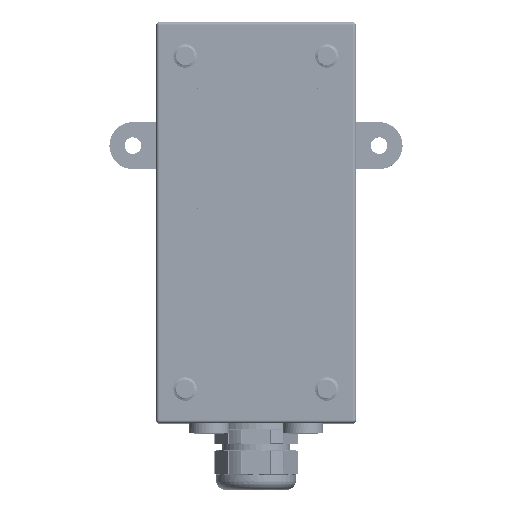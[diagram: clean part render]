
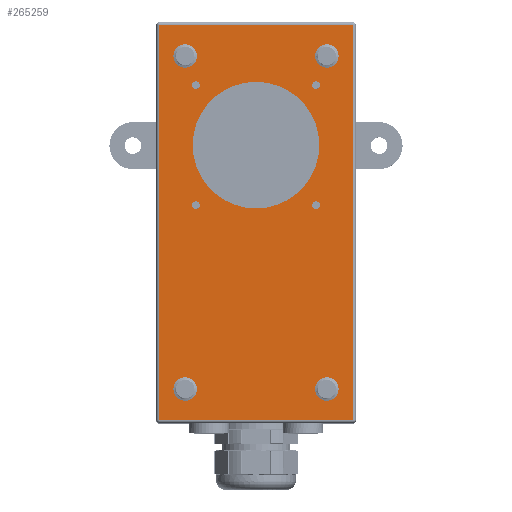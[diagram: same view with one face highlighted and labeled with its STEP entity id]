
A CAD part, top view. The second image highlights one B-rep face of the part: STEP entity #265259.
In plain terms, the highlighted planar face has unit normal (0, 0, 1).
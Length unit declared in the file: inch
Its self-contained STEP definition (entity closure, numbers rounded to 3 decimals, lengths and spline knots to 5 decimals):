
#211 = VECTOR ( 'NONE', #9081, 39.37008 ) ;
#762 = DIRECTION ( 'NONE',  ( 1., 0., 0. ) ) ;
#3492 = CARTESIAN_POINT ( 'NONE',  ( 0., 0., 1.53 ) ) ;
#5926 = EDGE_LOOP ( 'NONE', ( #28996 ) ) ;
#6194 = DIRECTION ( 'NONE',  ( 0., 0., 1. ) ) ;
#6613 = CARTESIAN_POINT ( 'NONE',  ( -2.065, -4.215, 1.53 ) ) ;
#8203 = VERTEX_POINT ( 'NONE', #174465 ) ;
#9081 = DIRECTION ( 'NONE',  ( 0., 1., 0. ) ) ;
#9269 = DIRECTION ( 'NONE',  ( 0., 0., 1. ) ) ;
#10535 = CIRCLE ( 'NONE', #229833, 0.08268 ) ;
#12426 = DIRECTION ( 'NONE',  ( 1., 0., 0. ) ) ;
#13207 = ORIENTED_EDGE ( 'NONE', *, *, #85139, .T. ) ;
#16188 = AXIS2_PLACEMENT_3D ( 'NONE', #264359, #224515, #265702 ) ;
#17760 = AXIS2_PLACEMENT_3D ( 'NONE', #51206, #97874, #53943 ) ;
#17820 = CARTESIAN_POINT ( 'NONE',  ( 1.28, 2.93, 1.53 ) ) ;
#18423 = EDGE_CURVE ( 'NONE', #8203, #8203, #29927, .T. ) ;
#28926 = EDGE_CURVE ( 'NONE', #256913, #256913, #109097, .T. ) ;
#28996 = ORIENTED_EDGE ( 'NONE', *, *, #126473, .F. ) ;
#29038 = EDGE_LOOP ( 'NONE', ( #104745 ) ) ;
#29375 = EDGE_LOOP ( 'NONE', ( #269695 ) ) ;
#29927 = CIRCLE ( 'NONE', #34277, 0.1378 ) ;
#31531 = ORIENTED_EDGE ( 'NONE', *, *, #54662, .F. ) ;
#34277 = AXIS2_PLACEMENT_3D ( 'NONE', #210949, #62582, #762 ) ;
#35301 = VERTEX_POINT ( 'NONE', #97116 ) ;
#37696 = AXIS2_PLACEMENT_3D ( 'NONE', #38133, #126001, #211165 ) ;
#38133 = CARTESIAN_POINT ( 'NONE',  ( 1.51, 3.55, 1.53 ) ) ;
#43742 = AXIS2_PLACEMENT_3D ( 'NONE', #248802, #251523, #99126 ) ;
#45910 = ORIENTED_EDGE ( 'NONE', *, *, #18423, .F. ) ;
#51206 = CARTESIAN_POINT ( 'NONE',  ( -1.51, 3.55, 1.53 ) ) ;
#53943 = DIRECTION ( 'NONE',  ( 1., 0., 0. ) ) ;
#54662 = EDGE_CURVE ( 'NONE', #266412, #266412, #162531, .T. ) ;
#57029 = ORIENTED_EDGE ( 'NONE', *, *, #174514, .F. ) ;
#57203 = CARTESIAN_POINT ( 'NONE',  ( 2.065, 4.215, 1.53 ) ) ;
#58081 = LINE ( 'NONE', #125285, #173767 ) ;
#58598 = VERTEX_POINT ( 'NONE', #241420 ) ;
#62582 = DIRECTION ( 'NONE',  ( 0., 0., 1. ) ) ;
#66983 = VERTEX_POINT ( 'NONE', #257943 ) ;
#67585 = VERTEX_POINT ( 'NONE', #204473 ) ;
#69537 = CARTESIAN_POINT ( 'NONE',  ( 2.065, 4.275, 1.53 ) ) ;
#78155 = DIRECTION ( 'NONE',  ( 1., 0., 0. ) ) ;
#79451 = DIRECTION ( 'NONE',  ( -1., 0., 0. ) ) ;
#79508 = DIRECTION ( 'NONE',  ( 0., 0., 1. ) ) ;
#79667 = DIRECTION ( 'NONE',  ( 0., 0., 1. ) ) ;
#80845 = CARTESIAN_POINT ( 'NONE',  ( 1.36268, 2.93, 1.53 ) ) ;
#81312 = CIRCLE ( 'NONE', #98798, 0.08268 ) ;
#81878 = CIRCLE ( 'NONE', #16188, 0.08268 ) ;
#84904 = CARTESIAN_POINT ( 'NONE',  ( 1.6478, 3.55, 1.53 ) ) ;
#85139 = EDGE_CURVE ( 'NONE', #138720, #138720, #166713, .T. ) ;
#86206 = EDGE_CURVE ( 'NONE', #67585, #173010, #257780, .T. ) ;
#86243 = VERTEX_POINT ( 'NONE', #80845 ) ;
#88622 = DIRECTION ( 'NONE',  ( 1., 0., 0. ) ) ;
#89999 = FACE_BOUND ( 'NONE', #217823, .T. ) ;
#97116 = CARTESIAN_POINT ( 'NONE',  ( -1.19732, 2.93, 1.53 ) ) ;
#97874 = DIRECTION ( 'NONE',  ( 0., 0., 1. ) ) ;
#98798 = AXIS2_PLACEMENT_3D ( 'NONE', #171094, #6194, #88622 ) ;
#99126 = DIRECTION ( 'NONE',  ( 1., 0., 0. ) ) ;
#101466 = CARTESIAN_POINT ( 'NONE',  ( 1.35, 1.65, 1.53 ) ) ;
#101836 = EDGE_LOOP ( 'NONE', ( #31531 ) ) ;
#104745 = ORIENTED_EDGE ( 'NONE', *, *, #240848, .F. ) ;
#107911 = FACE_BOUND ( 'NONE', #29038, .T. ) ;
#109097 = CIRCLE ( 'NONE', #188161, 0.1378 ) ;
#114622 = VECTOR ( 'NONE', #222199, 39.37008 ) ;
#116202 = EDGE_LOOP ( 'NONE', ( #57029 ) ) ;
#117693 = EDGE_CURVE ( 'NONE', #270436, #270436, #186920, .T. ) ;
#118099 = CIRCLE ( 'NONE', #205734, 0.08268 ) ;
#119767 = EDGE_CURVE ( 'NONE', #266508, #161567, #58081, .T. ) ;
#119859 = EDGE_LOOP ( 'NONE', ( #217598, #264840, #126030, #204615 ) ) ;
#125285 = CARTESIAN_POINT ( 'NONE',  ( -2.065, -4.275, 1.53 ) ) ;
#126001 = DIRECTION ( 'NONE',  ( 0., 0., 1. ) ) ;
#126030 = ORIENTED_EDGE ( 'NONE', *, *, #268052, .T. ) ;
#126473 = EDGE_CURVE ( 'NONE', #86243, #86243, #118099, .T. ) ;
#128574 = FACE_BOUND ( 'NONE', #101836, .T. ) ;
#133987 = FACE_BOUND ( 'NONE', #267000, .T. ) ;
#138720 = VERTEX_POINT ( 'NONE', #101466 ) ;
#153202 = FACE_BOUND ( 'NONE', #29375, .T. ) ;
#156286 = CARTESIAN_POINT ( 'NONE',  ( 1.51, -3.55, 1.53 ) ) ;
#161567 = VERTEX_POINT ( 'NONE', #6613 ) ;
#162531 = CIRCLE ( 'NONE', #17760, 0.1378 ) ;
#166713 = CIRCLE ( 'NONE', #43742, 1.35 ) ;
#171094 = CARTESIAN_POINT ( 'NONE',  ( -1.28, 2.93, 1.53 ) ) ;
#172481 = DIRECTION ( 'NONE',  ( 0., 0., 1. ) ) ;
#173010 = VERTEX_POINT ( 'NONE', #57203 ) ;
#173767 = VECTOR ( 'NONE', #246306, 39.37008 ) ;
#174465 = CARTESIAN_POINT ( 'NONE',  ( -1.3722, -3.55, 1.53 ) ) ;
#174514 = EDGE_CURVE ( 'NONE', #66983, #66983, #81878, .T. ) ;
#179913 = CARTESIAN_POINT ( 'NONE',  ( -1.3722, 3.55, 1.53 ) ) ;
#186279 = VECTOR ( 'NONE', #79451, 39.37008 ) ;
#186920 = CIRCLE ( 'NONE', #37696, 0.1378 ) ;
#188161 = AXIS2_PLACEMENT_3D ( 'NONE', #156286, #9269, #222224 ) ;
#191729 = FACE_BOUND ( 'NONE', #116202, .T. ) ;
#194452 = DIRECTION ( 'NONE',  ( 1., 0., 0. ) ) ;
#195811 = FACE_OUTER_BOUND ( 'NONE', #119859, .T. ) ;
#204473 = CARTESIAN_POINT ( 'NONE',  ( 2.065, -4.215, 1.53 ) ) ;
#204503 = CARTESIAN_POINT ( 'NONE',  ( -2.125, 4.215, 1.53 ) ) ;
#204615 = ORIENTED_EDGE ( 'NONE', *, *, #86206, .T. ) ;
#205734 = AXIS2_PLACEMENT_3D ( 'NONE', #17820, #79667, #12426 ) ;
#210949 = CARTESIAN_POINT ( 'NONE',  ( -1.51, -3.55, 1.53 ) ) ;
#211165 = DIRECTION ( 'NONE',  ( 1., 0., 0. ) ) ;
#212369 = FACE_BOUND ( 'NONE', #257438, .T. ) ;
#213712 = FACE_BOUND ( 'NONE', #250705, .T. ) ;
#215056 = FACE_BOUND ( 'NONE', #5926, .T. ) ;
#217598 = ORIENTED_EDGE ( 'NONE', *, *, #242359, .T. ) ;
#217823 = EDGE_LOOP ( 'NONE', ( #45910 ) ) ;
#222199 = DIRECTION ( 'NONE',  ( 1., 0., 0. ) ) ;
#222224 = DIRECTION ( 'NONE',  ( 1., 0., 0. ) ) ;
#224515 = DIRECTION ( 'NONE',  ( 0., 0., 1. ) ) ;
#229833 = AXIS2_PLACEMENT_3D ( 'NONE', #243107, #79508, #78155 ) ;
#233290 = AXIS2_PLACEMENT_3D ( 'NONE', #3492, #172481, #194452 ) ;
#237038 = PLANE ( 'NONE',  #233290 ) ;
#240848 = EDGE_CURVE ( 'NONE', #58598, #58598, #10535, .T. ) ;
#241420 = CARTESIAN_POINT ( 'NONE',  ( 1.36268, 0.37, 1.53 ) ) ;
#242359 = EDGE_CURVE ( 'NONE', #173010, #266508, #243053, .T. ) ;
#242798 = CARTESIAN_POINT ( 'NONE',  ( 2.125, -4.215, 1.53 ) ) ;
#243053 = LINE ( 'NONE', #204503, #186279 ) ;
#243107 = CARTESIAN_POINT ( 'NONE',  ( 1.28, 0.37, 1.53 ) ) ;
#244140 = LINE ( 'NONE', #242798, #114622 ) ;
#244782 = EDGE_CURVE ( 'NONE', #35301, #35301, #81312, .T. ) ;
#246306 = DIRECTION ( 'NONE',  ( 0., -1., 0. ) ) ;
#248802 = CARTESIAN_POINT ( 'NONE',  ( 0., 1.65, 1.53 ) ) ;
#250705 = EDGE_LOOP ( 'NONE', ( #269764 ) ) ;
#251523 = DIRECTION ( 'NONE',  ( 0., 0., -1. ) ) ;
#256913 = VERTEX_POINT ( 'NONE', #258270 ) ;
#257438 = EDGE_LOOP ( 'NONE', ( #270715 ) ) ;
#257780 = LINE ( 'NONE', #69537, #211 ) ;
#257943 = CARTESIAN_POINT ( 'NONE',  ( -1.19732, 0.37, 1.53 ) ) ;
#258270 = CARTESIAN_POINT ( 'NONE',  ( 1.6478, -3.55, 1.53 ) ) ;
#264359 = CARTESIAN_POINT ( 'NONE',  ( -1.28, 0.37, 1.53 ) ) ;
#264840 = ORIENTED_EDGE ( 'NONE', *, *, #119767, .T. ) ;
#265259 = ADVANCED_FACE ( 'NONE', ( #195811, #215056, #107911, #191729, #213712, #133987, #128574, #212369, #89999, #153202 ), #237038, .T. ) ;
#265702 = DIRECTION ( 'NONE',  ( 1., 0., 0. ) ) ;
#266412 = VERTEX_POINT ( 'NONE', #179913 ) ;
#266508 = VERTEX_POINT ( 'NONE', #271257 ) ;
#267000 = EDGE_LOOP ( 'NONE', ( #13207 ) ) ;
#268052 = EDGE_CURVE ( 'NONE', #161567, #67585, #244140, .T. ) ;
#269695 = ORIENTED_EDGE ( 'NONE', *, *, #28926, .F. ) ;
#269764 = ORIENTED_EDGE ( 'NONE', *, *, #244782, .F. ) ;
#270436 = VERTEX_POINT ( 'NONE', #84904 ) ;
#270715 = ORIENTED_EDGE ( 'NONE', *, *, #117693, .F. ) ;
#271257 = CARTESIAN_POINT ( 'NONE',  ( -2.065, 4.215, 1.53 ) ) ;
